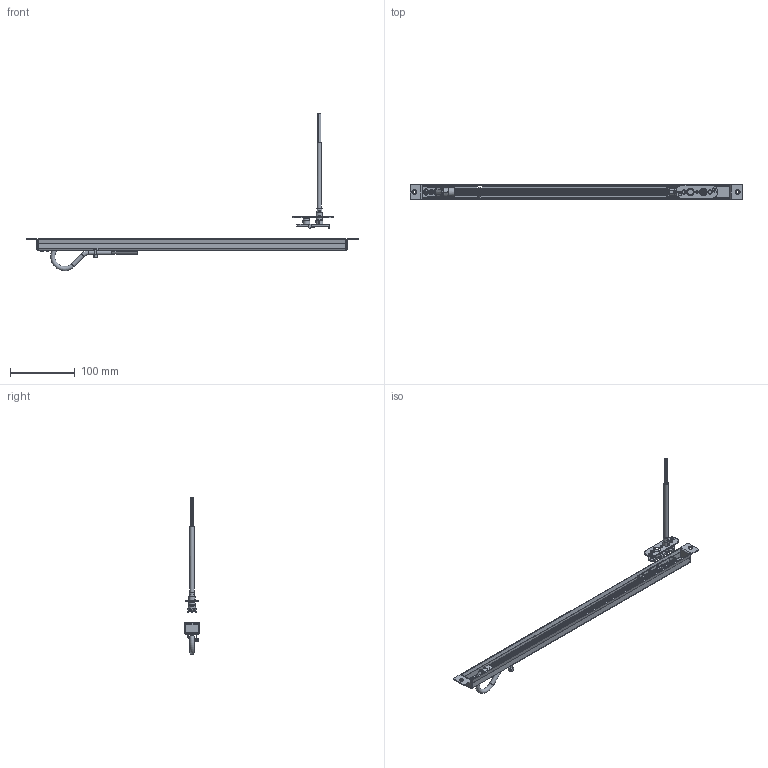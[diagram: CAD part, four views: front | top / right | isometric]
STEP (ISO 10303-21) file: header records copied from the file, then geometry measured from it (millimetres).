
FILE_DESCRIPTION(/* description */ (''),/* implementation_level */ '2;1');
FILE_NAME(/* name */ 'U:\Vault Arbeitsordner\CAD-Daten\Produkte\KundenZG - ohne TeileNr\M 12 91\M 12 91- Homepage\M 12 91 (Kabelübergang lösbar).stp',/* time_stamp */ '2020-10-27T10:17:07+01:00',/* author */ ('prosenberg'),/* organization */ (''),/* preprocessor_version */ 'ST-DEVELOPER v18',/* originating_system */ 'Autodesk Inventor 2020',/* authorisation */ '');
FILE_SCHEMA (('AUTOMOTIVE_DESIGN { 1 0 10303 214 3 1 1 }'));
Products named in the file (1): Bauteil4
Bounding box: 511 x 24 x 242.1 mm (x, y, z)
Volume: 84012.9 mm3; surface area: 115695.2 mm2
Topology: 3 solids, 7 shells, 1398 faces, 3588 edges, 2229 vertices
Faces by surface type: plane 524, cylinder 464, torus 121, bspline 120, cone 110, sphere 59
Full cylindrical faces by diameter (mm): 0.5 x16, 0.7 x12, 1.2 x16, 1.4 x26, 1.5 x2, 1.6 x1, 2.459 x1, 3 x2, 3.621 x2, 3.726 x1, 4 x2, 4.5 x2, 4.7 x2, 5.2 x1, 5.7 x3, 5.8 x2, 6 x4, 6.5 x5, 7 x2, 7.1 x4, 8.8 x4, 9.3 x1, 11.4 x1
Entity records: 74679 total; most frequent: CARTESIAN_POINT 39695, ORIENTED_EDGE 7058, DIRECTION 6947, EDGE_CURVE 3529, AXIS2_PLACEMENT_3D 2743, VERTEX_POINT 2230, EDGE_LOOP 1587, LINE 1461
